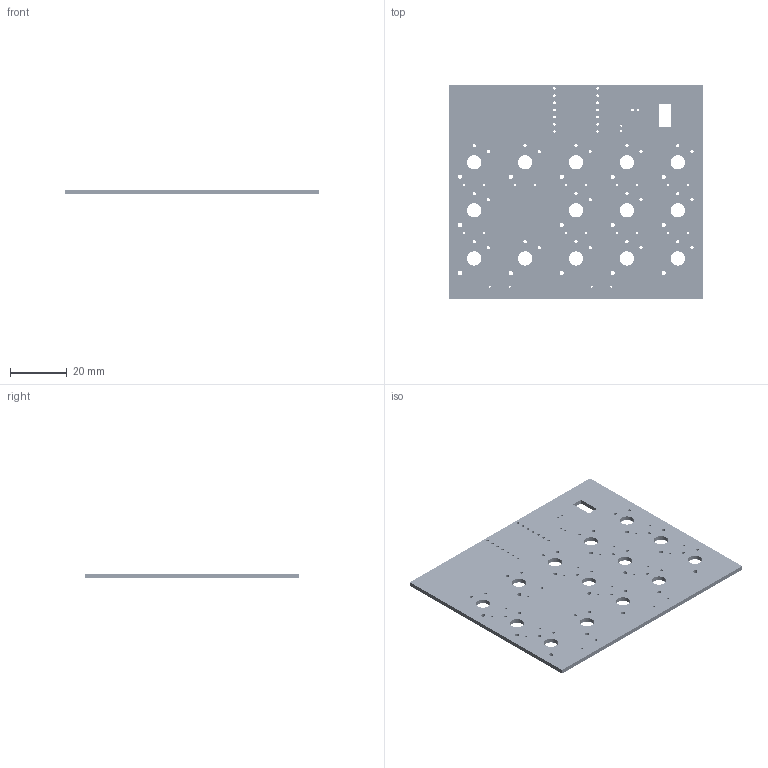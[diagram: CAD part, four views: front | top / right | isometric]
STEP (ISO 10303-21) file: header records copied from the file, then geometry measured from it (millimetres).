
FILE_DESCRIPTION(('KiCad electronic assembly'),'2;1');
FILE_NAME('claudepad-pcb.step','2026-10-26T22:12:38',('Pcbnew'),('Kicad' ),'Open CASCADE STEP processor 7.9','KiCad to STEP converter', 'Unknown');
FILE_SCHEMA(('AUTOMOTIVE_DESIGN { 1 0 10303 214 1 1 1 1 }'));
Length unit declared in the file: millimetre
Products named in the file (9): claudepad-pcb 1; claudepad_copper; claudepad_pad; claudepad_via; claudepad_silkscreen; claudepad_soldermask; claudepad_PCB
Assembly tree (8 placements, depth 2):
  claudepad-pcb 1
    claudepad_copper
    claudepad_pad
    claudepad_via
    claudepad_silkscreen
    claudepad_silkscreen
    claudepad_soldermask
    claudepad_soldermask
    claudepad_PCB
Bounding box: 90 x 76 x 1.66 mm (x, y, z)
Volume: 9779.6 mm3; surface area: 29973.2 mm2
Topology: 452 solids, 581 shells, 2483 faces, 6407 edges, 4957 vertices
Faces by surface type: plane 1495, cylinder 988
Full cylindrical faces by diameter (mm): 0.25 x3, 0.275 x12, 0.3 x3, 0.6 x6, 0.75 x120, 0.8 x48, 0.85 x10, 0.9 x4, 0.95 x70, 1 x28, 1.15 x140, 1.2 x56, 1.55 x70, 1.6 x124, 1.7 x52, 2.2 x112, 2.6 x56, 5.05 x14
Entity records: 83497 total; most frequent: DIRECTION 14106, CARTESIAN_POINT 13856, ORIENTED_EDGE 10757, EDGE_CURVE 6407, AXIS2_PLACEMENT_3D 5207, VERTEX_POINT 4957, FACE_BOUND 3758, EDGE_LOOP 3758
